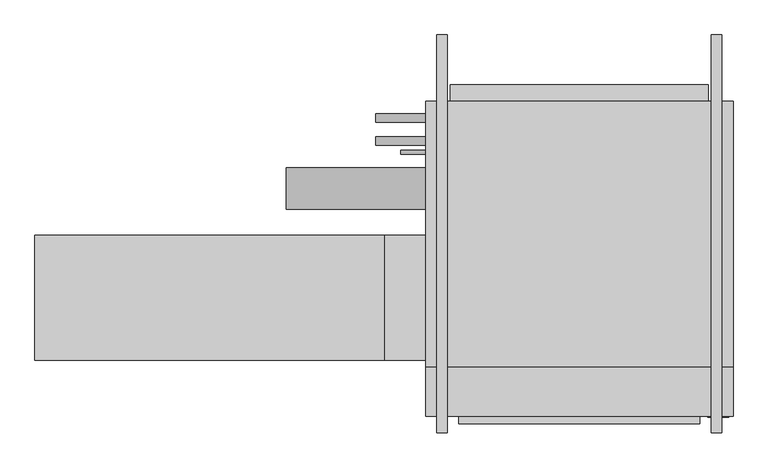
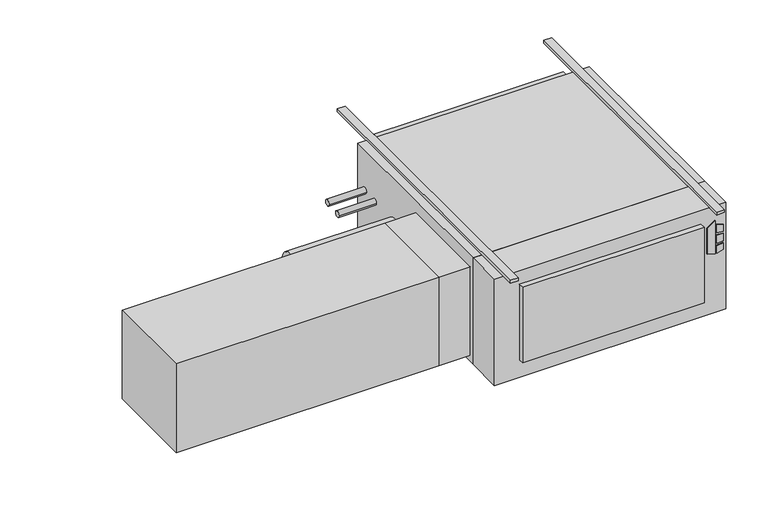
"""IFC4 building model written with IfcOpenShell, lengths in millimetres: proxy geometry."""

from ifc_helpers import new_model, si_unit, point, frame, frame_2d, origin, origin_with_axes, place, context, project, spatial, polyline, circle_curve, trimmed, segment, composite_curve, outline, extrude, source, transform, mapped, element, save


def mechanical_equipment_10c53586(model_context):
    return source(origin(), model_context, "Body", "SweptSolid", [
        extrude(outline(polyline([(-193.2519297, 544.5868862), (-203.2, 576.7602728), (-61.0290756, 576.7602728), (-84.0510817, 544.5868862), (-193.2519297, 544.5868862)])), frame((0.0, -797.052, 0.0), z_axis=(0.0, 1.0, 0.0), x_axis=(0.0, 0.0, 1.0)), (0.0, 0.0, 1.0), 3.175),
        extrude(outline(polyline([(-114.2526443, 583.5186058), (-117.4550368, 609.6), (-88.2261958, 609.6), (-80.1617807, 583.5186058), (-114.2526443, 583.5186058)])), frame((0.0, -797.052, 0.0), z_axis=(0.0, 1.0, 0.0), x_axis=(0.0, 0.0, 1.0)), (0.0, 0.0, 1.0), 3.175),
        extrude(outline(polyline([(-166.1161712, 609.6), (-169.7816721, 583.5186058), (-203.2, 583.5186058), (-194.5657628, 609.6), (-166.1161712, 609.6)])), frame((0.0, -797.052, 0.0), z_axis=(0.0, 1.0, 0.0), x_axis=(0.0, 0.0, 1.0)), (0.0, 0.0, 1.0), 3.175),
        extrude(outline(polyline([(-126.8010097, 609.6), (-124.5191834, 583.5186058), (-160.4567319, 583.5186058), (-157.7154669, 609.6), (-126.8010097, 609.6)])), frame((0.0, -797.052, 0.0), z_axis=(0.0, 1.0, 0.0), x_axis=(0.0, 0.0, 1.0)), (0.0, 0.0, 1.0), 3.175),
        extrude(outline(polyline([(622.3, -793.877), (-317.5, -793.877), (-317.5, -644.525), (622.3, -644.525), (622.3, -793.877)])), frame((0.0, 0.0, -457.2), z_axis=(0.0, 0.0, 1.0), x_axis=(1.0, 0.0, 0.0)), (0.0, 0.0, 1.0), 457.2),
        extrude(outline(polyline([(520.7, -816.229), (-215.9, -816.229), (-215.9, -793.877), (520.7, -793.877), (520.7, -816.229)])), frame((0.0, 0.0, -381.0), z_axis=(0.0, 0.0, 1.0), x_axis=(1.0, 0.0, 0.0)), (0.0, 0.0, 1.0), 323.85),
        extrude(outline(polyline([(-1511.3, -622.3), (-1511.3, -241.3), (-444.5, -241.3), (-444.5, -622.3), (-1511.3, -622.3)])), frame((0.0, 0.0, -431.8), z_axis=(0.0, 0.0, 1.0), x_axis=(1.0, 0.0, 0.0)), (0.0, 0.0, 1.0), 381.0),
        extrude(outline(polyline([(-317.5, -241.3), (-317.5, -622.3), (-444.5, -622.3), (-444.5, -241.3), (-317.5, -241.3)])), frame((0.0, 0.0, -431.8), z_axis=(0.0, 0.0, 1.0), x_axis=(1.0, 0.0, 0.0)), (0.0, 0.0, 1.0), 381.0),
        extrude(outline(composite_curve([segment(trimmed(circle_curve(frame_2d((-98.4896516, -228.6360165)), 63.5), [point((-161.9896516, -228.6360165))], [point((-34.9896516, -228.6360165))], False, "CARTESIAN"), True, "CONTINUOUS"), segment(trimmed(circle_curve(frame_2d((-98.4896516, -228.6360165)), 63.5), [point((-34.9896516, -228.6360165))], [point((-161.9896516, -228.6360165))], False, "CARTESIAN"), True, "CONTINUOUS")], self_intersect=False)), frame((-742.95, 0.0, 0.0), z_axis=(1.0, 0.0, 0.0), x_axis=(0.0, 1.0, 0.0)), (0.0, 0.0, 1.0), 425.45),
        extrude(outline(composite_curve([segment(trimmed(circle_curve(frame_2d((47.625, -177.8)), 12.7), [point((34.925, -177.8))], [point((60.325, -177.8))], False, "CARTESIAN"), True, "CONTINUOUS"), segment(trimmed(circle_curve(frame_2d((47.625, -177.8)), 12.7), [point((60.325, -177.8))], [point((34.925, -177.8))], False, "CARTESIAN"), True, "CONTINUOUS")], self_intersect=False)), frame((-469.9, 0.0, 0.0), z_axis=(1.0, 0.0, 0.0), x_axis=(0.0, 1.0, 0.0)), (0.0, 0.0, 1.0), 152.4),
        extrude(outline(composite_curve([segment(trimmed(circle_curve(frame_2d((117.475, -171.45)), 12.7), [point((104.775, -171.45))], [point((130.175, -171.45))], False, "CARTESIAN"), True, "CONTINUOUS"), segment(trimmed(circle_curve(frame_2d((117.475, -171.45)), 12.7), [point((130.175, -171.45))], [point((104.775, -171.45))], False, "CARTESIAN"), True, "CONTINUOUS")], self_intersect=False)), frame((-469.9, 0.0, 0.0), z_axis=(1.0, 0.0, 0.0), x_axis=(0.0, 1.0, 0.0)), (0.0, 0.0, 1.0), 152.4),
        extrude(outline(composite_curve([segment(trimmed(circle_curve(frame_2d((12.7, -409.575)), 6.35), [point((6.35, -409.575))], [point((19.05, -409.575))], False, "CARTESIAN"), True, "CONTINUOUS"), segment(trimmed(circle_curve(frame_2d((12.7, -409.575)), 6.35), [point((19.05, -409.575))], [point((6.35, -409.575))], False, "CARTESIAN"), True, "CONTINUOUS")], self_intersect=False)), frame((-393.7, 0.0, 0.0), z_axis=(1.0, 0.0, 0.0), x_axis=(0.0, 1.0, 0.0)), (0.0, 0.0, 1.0), 76.2),
        extrude(outline(polyline([(622.3, 168.275), (622.3, -644.525), (-317.5, -644.525), (-317.5, 168.275), (622.3, 168.275)])), frame((0.0, 0.0, -457.2), z_axis=(0.0, 0.0, 1.0), x_axis=(1.0, 0.0, 0.0)), (0.0, 0.0, 1.0), 457.2),
        extrude(outline(polyline([(-241.3, 219.075), (546.1, 219.075), (546.1, 168.275), (-241.3, 168.275), (-241.3, 219.075)])), frame((0.0, 0.0, -381.0), z_axis=(0.0, 0.0, 1.0), x_axis=(1.0, 0.0, 0.0)), (0.0, 0.0, 1.0), 355.6),
        extrude(outline(polyline([(-250.825, 371.475), (-250.825, -844.677), (-282.575, -844.677), (-282.575, 371.475), (-250.825, 371.475)])), origin_with_axes(), (0.0, 0.0, 1.0), 12.7),
        extrude(outline(polyline([(587.375, 371.475), (587.375, -844.677), (555.625, -844.677), (555.625, 371.475), (587.375, 371.475)])), origin_with_axes(), (0.0, 0.0, 1.0), 12.7),
    ])


if __name__ == "__main__":
    model = new_model("IFC4")
    model_context = context("Model", 3, world=origin())
    ifc_project = project(units=[si_unit("LENGTHUNIT", "METRE", prefix="MILLI")], contexts=[model_context])
    site = spatial("IfcSite", under=ifc_project)
    building = spatial("IfcBuilding", under=site)
    placement = place(None, origin())
    mechanical_equipment_shape = mechanical_equipment_10c53586(model_context)
    element("IfcBuildingElementProxy", 1, Name="High_Capacity_Horizontal_Cabinet_Fan_Coil_Unit_-_HTY_-_IEC_-_2 Pipe, Elec Heat_LH Side_2022 : Size 12 - 277v/60Hz/1Ph - 8/0 Coil 9.0kW - 5\" AirIn", ObjectType="High_Capacity_Horizontal_Cabinet_Fan_Coil_Unit_-_HTY_-_IEC_-_2 Pipe, Elec Heat_LH Side_2022 : Size 12 - 277v/60Hz/1Ph - 8/0 Coil 9.0kW - 5\" AirIn", at=placement, inside=building, context=model_context, shape_type="MappedRepresentation", body=[
        mapped(mechanical_equipment_shape, transform((0.0, 0.0, 0.0), x_axis=(1.0, 0.0, 0.0), y_axis=(0.0, 1.0, 0.0), z_axis=(0.0, 0.0, 1.0))),
    ])
    save(model, "model.ifc")
